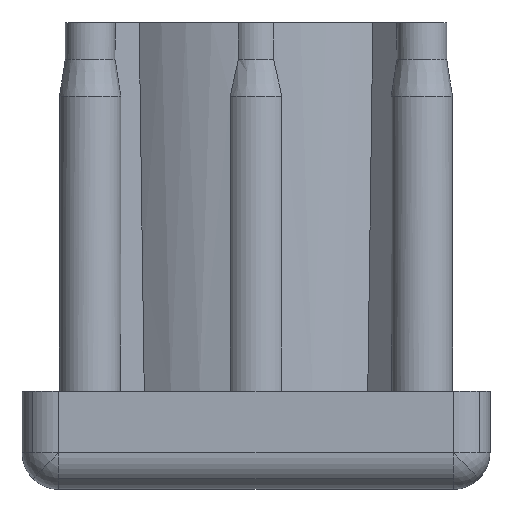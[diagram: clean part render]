
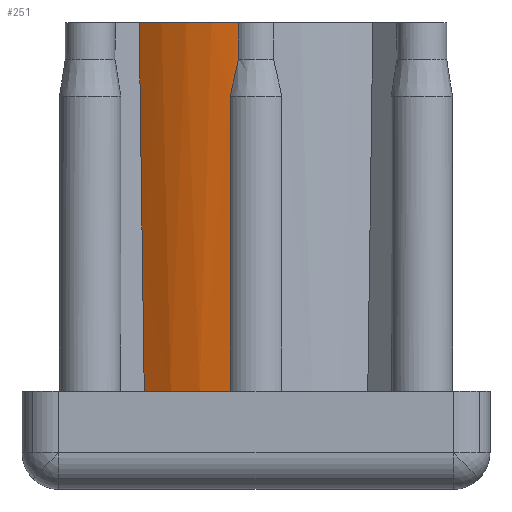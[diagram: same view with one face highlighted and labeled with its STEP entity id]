
A CAD part, front view. The second image highlights one B-rep face of the part: STEP entity #251.
In plain terms, the highlighted cylindrical face has radius 15 mm (diameter 30 mm), a partial arc.
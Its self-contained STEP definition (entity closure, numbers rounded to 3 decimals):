
#149 = VERTEX_POINT ( 'NONE', #3835 ) ;
#205 = EDGE_CURVE ( 'NONE', #3900, #149, #2085, .T. ) ;
#214 = CARTESIAN_POINT ( 'NONE',  ( -1.432, -14.931, 35.75 ) ) ;
#251 = ADVANCED_FACE ( 'NONE', ( #269 ), #3453, .T. ) ;
#269 = FACE_OUTER_BOUND ( 'NONE', #1802, .T. ) ;
#416 = CIRCLE ( 'NONE', #2618, 15. ) ;
#500 = DIRECTION ( 'NONE',  ( 0., 0., 1. ) ) ;
#660 = CARTESIAN_POINT ( 'NONE',  ( 0., 0., 37.25 ) ) ;
#701 = CARTESIAN_POINT ( 'NONE',  ( -2.103, -14.852, 7.25 ) ) ;
#870 = VECTOR ( 'NONE', #500, 1000. ) ;
#894 = CARTESIAN_POINT ( 'NONE',  ( -1.432, -14.931, 34.25 ) ) ;
#1177 = DIRECTION ( 'NONE',  ( 0.707, -0.707, 0.017 ) ) ;
#1439 = CARTESIAN_POINT ( 'NONE',  ( -2.103, -14.852, 31.25 ) ) ;
#1443 = EDGE_CURVE ( 'NONE', #149, #2586, #3044, .T. ) ;
#1460 = DIRECTION ( 'NONE',  ( -0.707, -0.707, -0.002 ) ) ;
#1491 = CARTESIAN_POINT ( 'NONE',  ( -1.856, -14.887, 32.442 ) ) ;
#1587 = CARTESIAN_POINT ( 'NONE',  ( 0., 0., 37.25 ) ) ;
#1588 = DIRECTION ( 'NONE',  ( -1., 0., 0. ) ) ;
#1624 = VERTEX_POINT ( 'NONE', #701 ) ;
#1640 = ORIENTED_EDGE ( 'NONE', *, *, #2379, .T. ) ;
#1802 = EDGE_LOOP ( 'NONE', ( #3856, #1640, #2168, #2853, #2129, #2077 ) ) ;
#1875 = CARTESIAN_POINT ( 'NONE',  ( 0., 0., 7.25 ) ) ;
#1897 = DIRECTION ( 'NONE',  ( 0., 0., 1. ) ) ;
#2050 = VERTEX_POINT ( 'NONE', #3799 ) ;
#2077 = ORIENTED_EDGE ( 'NONE', *, *, #1443, .T. ) ;
#2085 = B_SPLINE_CURVE_WITH_KNOTS ( 'NONE', 3,
 ( #1439, #1491, #2725, #894 ),
 .UNSPECIFIED., .F., .F.,
 ( 4, 4 ),
 ( 0., 1. ),
 .UNSPECIFIED. ) ;
#2089 = DIRECTION ( 'NONE',  ( 0., 0., 1. ) ) ;
#2107 = EDGE_CURVE ( 'NONE', #3966, #2586, #2584, .T. ) ;
#2108 = CARTESIAN_POINT ( 'NONE',  ( -1.432, -14.931, 37.25 ) ) ;
#2129 = ORIENTED_EDGE ( 'NONE', *, *, #205, .T. ) ;
#2168 = ORIENTED_EDGE ( 'NONE', *, *, #3151, .T. ) ;
#2171 = DIRECTION ( 'NONE',  ( 1., 0., 0. ) ) ;
#2332 = EDGE_CURVE ( 'NONE', #1624, #3900, #2482, .T. ) ;
#2334 = CARTESIAN_POINT ( 'NONE',  ( -2.103, -14.852, 22.25 ) ) ;
#2379 = EDGE_CURVE ( 'NONE', #3966, #2050, #3700, .T. ) ;
#2454 = DIRECTION ( 'NONE',  ( 0., 0., 1. ) ) ;
#2457 = DIRECTION ( 'NONE',  ( 0., 0., -1. ) ) ;
#2462 = AXIS2_PLACEMENT_3D ( 'NONE', #1587, #1897, #2515 ) ;
#2482 = LINE ( 'NONE', #2334, #870 ) ;
#2515 = DIRECTION ( 'NONE',  ( 1., 0., 0. ) ) ;
#2584 = CIRCLE ( 'NONE', #2462, 15. ) ;
#2586 = VERTEX_POINT ( 'NONE', #2108 ) ;
#2618 = AXIS2_PLACEMENT_3D ( 'NONE', #1875, #2454, #2171 ) ;
#2725 = CARTESIAN_POINT ( 'NONE',  ( -1.632, -14.912, 33.442 ) ) ;
#2853 = ORIENTED_EDGE ( 'NONE', *, *, #2332, .T. ) ;
#2892 = AXIS2_PLACEMENT_3D ( 'NONE', #3583, #1177, #1460 ) ;
#3044 = LINE ( 'NONE', #214, #3565 ) ;
#3151 = EDGE_CURVE ( 'NONE', #2050, #1624, #416, .T. ) ;
#3453 = CYLINDRICAL_SURFACE ( 'NONE', #3755, 15. ) ;
#3543 = CARTESIAN_POINT ( 'NONE',  ( -9.511, -11.599, 37.25 ) ) ;
#3553 = CARTESIAN_POINT ( 'NONE',  ( -2.103, -14.852, 31.25 ) ) ;
#3565 = VECTOR ( 'NONE', #2089, 1000. ) ;
#3583 = CARTESIAN_POINT ( 'NONE',  ( 34110.396, 34110.363, 120.499 ) ) ;
#3700 = CIRCLE ( 'NONE', #2892, 48254.36 ) ;
#3755 = AXIS2_PLACEMENT_3D ( 'NONE', #660, #2457, #1588 ) ;
#3799 = CARTESIAN_POINT ( 'NONE',  ( -9.098, -11.926, 7.25 ) ) ;
#3835 = CARTESIAN_POINT ( 'NONE',  ( -1.432, -14.931, 34.25 ) ) ;
#3856 = ORIENTED_EDGE ( 'NONE', *, *, #2107, .F. ) ;
#3900 = VERTEX_POINT ( 'NONE', #3553 ) ;
#3966 = VERTEX_POINT ( 'NONE', #3543 ) ;
